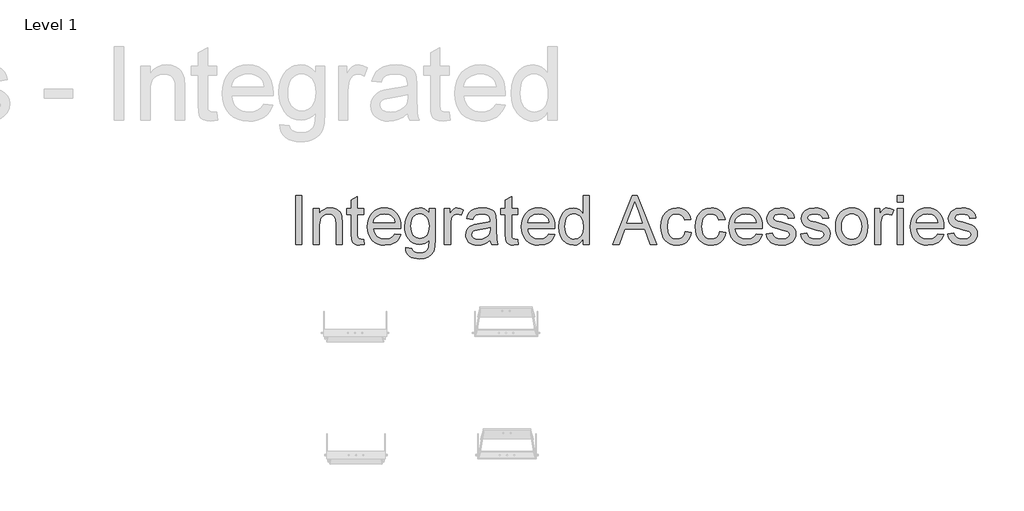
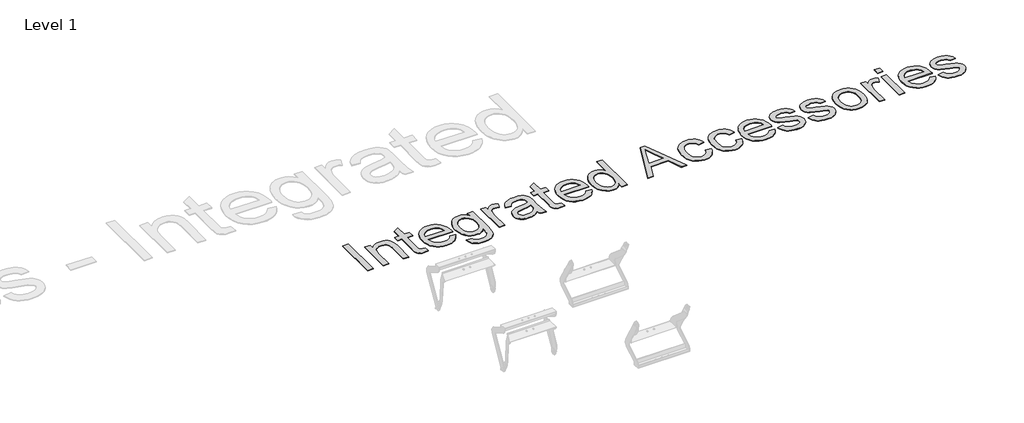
# One storey, part 3 of 7: 1 proxy.
"""IFC4 building model written with IfcOpenShell, lengths in millimetres."""

from ifc_helpers import new_model, si_unit, origin, origin_with_axes, place, context, project, spatial, polyline, outline, extrude, element, save

model = new_model("IFC4")

# Units and contexts
model_context = context("Model", 3, world=origin())
ifc_project = project(units=[si_unit("LENGTHUNIT", "METRE", prefix="MILLI")], contexts=[model_context])

# Site, building, storey
site = spatial("IfcSite", under=ifc_project)
building = spatial("IfcBuilding", under=site)
storey = spatial("IfcBuildingStorey", under=building, Name="Level 1", Elevation=0.0)

# Proxy
placement = place(None, origin())
element("IfcBuildingElementProxy", 1, Name="400mm Arial", ObjectType="400mm Arial", at=placement, inside=storey, context=model_context, shape_type="SweptSolid", body=[
    extrude(outline(polyline([(-11437.7764845, 10851.3054836), (-11437.7764845, 11243.0630593), (-11388.8067875, 11243.0630593), (-11388.8067875, 10851.3054836), (-11437.7764845, 10851.3054836)])), origin_with_axes(), (0.0, 0.0, 1.0), 5.0),
    extrude(outline(polyline([(-11296.9886057, 10851.3054836), (-11296.9886057, 11139.0024533), (-11248.0189088, 11139.0024533), (-11248.0189088, 11098.8319987), (-11231.006243, 11119.0846029), (-11210.5743065, 11133.5507487), (-11186.7230991, 11142.2304362), (-11159.4526209, 11145.1236654), (-11135.3144817, 11142.7923444), (-11113.2087762, 11135.7983813), (-11094.7734069, 11125.0145271), (-11081.6462762, 11111.3135328), (-11072.7394343, 11094.7312648), (-11066.9649315, 11075.3035896), (-11064.3825451, 11027.9598396), (-11064.3825451, 10851.3054836), (-11113.3522421, 10851.3054836), (-11113.3522421, 11021.3604078), (-11114.7629902, 11046.6821408), (-11118.9952345, 11064.6871124), (-11126.8021711, 11077.5870887), (-11138.9369959, 11087.5938358), (-11154.4910915, 11094.0139353), (-11172.5558406, 11096.1539684), (-11201.2370669, 11091.3478605), (-11225.6860489, 11076.9295366), (-11235.4566751, 11065.1593543), (-11242.4356938, 11049.0732393), (-11246.623105, 11028.6711914), (-11248.0189088, 11003.9532108), (-11248.0189088, 10851.3054836), (-11296.9886057, 10851.3054836)])), origin_with_axes(), (0.0, 0.0, 1.0), 5.0),
    extrude(outline(polyline([(-10892.9886057, 10892.1454457), (-10886.8673936, 10849.8708245), (-10923.4990224, 10845.1842715), (-10947.0035205, 10847.2167052), (-10964.5302724, 10853.3140063), (-10976.9161625, 10862.7110233), (-10984.9980754, 10874.6426048), (-10989.4455186, 10895.1343188), (-10990.9279997, 10930.2117336), (-10990.9279997, 11090.0327563), (-11027.6552724, 11090.0327563), (-11027.6552724, 11139.0024533), (-10990.9279997, 11139.0024533), (-10990.9279997, 11208.918173), (-10941.9583027, 11237.7069987), (-10941.9583027, 11139.0024533), (-10892.9886057, 11139.0024533), (-10892.9886057, 11090.0327563), (-10941.9583027, 11090.0327563), (-10941.9583027, 10931.6463927), (-10939.3759163, 10906.3963927), (-10931.0070716, 10897.4536843), (-10914.3172042, 10894.1539684), (-10892.9886057, 10892.1454457)])), origin_with_axes(), (0.0, 0.0, 1.0), 5.0),
    extrude(outline(polyline([(-10642.5927724, 10937.0024533), (-10594.5795148, 10930.8812411), (-10601.9411093, 10911.6508316), (-10611.8791124, 10894.7039211), (-10624.3935241, 10880.0405096), (-10639.4843444, 10867.6605972), (-10656.9961519, 10857.8272047), (-10676.7735252, 10850.8033529), (-10723.1249694, 10845.1842715), (-10753.5098534, 10847.6082475), (-10780.583066, 10854.8801758), (-10804.3446071, 10867.0000563), (-10824.7944769, 10883.9678889), (-10841.2392568, 10905.3114317), (-10852.9855281, 10930.5584429), (-10860.0332909, 10959.7089223), (-10862.3825451, 10992.7628699), (-10860.0093799, 11026.937645), (-10852.8898841, 11057.0595082), (-10841.0240579, 11083.1284594), (-10824.4119012, 11105.1444987), (-10804.0158311, 11122.6353841), (-10780.7982648, 11135.1288737), (-10754.7592023, 11142.6249675), (-10725.8986436, 11145.1236654), (-10697.9676244, 11142.6309452), (-10672.7086578, 11135.1527847), (-10650.1217438, 11122.6891839), (-10630.2068822, 11105.2401427), (-10613.9504014, 11083.2719253), (-10602.3386294, 11057.2507961), (-10595.3715662, 11027.1767549), (-10593.0492118, 10993.0498018), (-10593.3361436, 10979.8509381), (-10813.4128482, 10979.8509381), (-10810.5764076, 10960.3096858), (-10804.936404, 10943.1953983), (-10796.4928375, 10928.5080759), (-10785.245708, 10916.2477184), (-10756.8275025, 10899.6774059), (-10722.16853, 10894.1539684), (-10696.1055565, 10896.7124438), (-10674.1552724, 10904.3878699), (-10656.3176777, 10917.6584665), (-10642.5927724, 10937.0024533)]), holes=[polyline([(-10813.4128482, 11028.8206351), (-10642.0189088, 11028.8206351), (-10648.6422516, 11054.6923207), (-10661.6259163, 11073.199423), (-10674.9802014, 11083.2420366), (-10690.1756322, 11090.4153321), (-10726.0899315, 11096.1539684), (-10759.0990461, 11091.5750148), (-10786.3934353, 11077.838154), (-10805.3668018, 11056.4258671), (-10813.4128482, 11028.8206351)])]), origin_with_axes(), (0.0, 0.0, 1.0), 5.0),
    extrude(outline(polyline([(-10556.3219391, 10826.8206351), (-10507.3522421, 10820.699423), (-10501.9483595, 10805.3963927), (-10491.4753482, 10794.8755593), (-10470.8879902, 10786.6980025), (-10443.9403103, 10783.9721502), (-10415.1993065, 10787.0566673), (-10393.822886, 10796.3102184), (-10378.9980754, 10811.135029), (-10369.9119012, 10830.9333245), (-10366.5643633, 10888.0327563), (-10382.8596995, 10871.9645745), (-10401.0440035, 10860.4873018), (-10421.1172752, 10853.6009381), (-10443.0795148, 10851.3054836), (-10469.9285619, 10853.9775361), (-10493.5675593, 10861.9936938), (-10513.996507, 10875.3539566), (-10531.215405, 10894.0583245), (-10544.8775439, 10916.4987838), (-10554.6362146, 10941.0673207), (-10560.491417, 10967.7639353), (-10562.4431512, 10996.5886275), (-10558.9401919, 11036.125441), (-10548.4313141, 11072.4820934), (-10531.2871379, 11103.2913974), (-10507.8782838, 11126.1861654), (-10479.0057696, 11140.3892904), (-10445.4706133, 11145.1236654), (-10422.5698676, 11142.4456351), (-10401.785244, 11134.4115442), (-10383.1167426, 11121.0213927), (-10366.5643633, 11102.2751805), (-10366.5643633, 11139.0024533), (-10317.5946663, 11139.0024533), (-10317.5946663, 10890.6151427), (-10320.9422042, 10833.2646455), (-10330.9848179, 10795.4972449), (-10348.2844154, 10770.4504883), (-10373.402905, 10751.261923), (-10405.7903339, 10739.0673207), (-10444.8967497, 10735.0024533), (-10490.4591313, 10740.7291341), (-10509.6088413, 10747.8874852), (-10526.3375641, 10757.9091768), (-10539.8502594, 10770.8061642), (-10549.351887, 10786.5904031), (-10554.8424469, 10805.2618934), (-10556.3219391, 10826.8206351)]), holes=[polyline([(-10513.4734542, 10999.9361654), (-10508.248904, 10955.0193804), (-10501.7182163, 10937.8243934), (-10492.5752535, 10924.1383434), (-10481.4596344, 10913.6982097), (-10469.0109779, 10906.2409713), (-10455.229284, 10901.7666282), (-10440.1145527, 10900.2751805), (-10411.4333264, 10906.2051048), (-10387.7494959, 10923.9948775), (-10378.4810004, 10937.5464282), (-10371.8606464, 10954.4813832), (-10366.5643633, 10998.5015063), (-10372.0160679, 11040.9554599), (-10378.8306985, 11057.7260269), (-10388.3711815, 11071.525654), (-10412.4017213, 11089.9968898), (-10426.0847823, 11094.6146988), (-10440.8797042, 11096.1539684), (-10455.4265496, 11094.6386098), (-10468.843601, 11090.0925338), (-10492.2883216, 11071.9082298), (-10501.5568171, 11058.3178238), (-10508.1771711, 11041.7923444), (-10513.4734542, 10999.9361654)])]), origin_with_axes(), (0.0, 0.0, 1.0), 5.0),
    extrude(outline(polyline([(-10244.1401209, 10851.3054836), (-10244.1401209, 11139.0024533), (-10201.291636, 11139.0024533), (-10201.291636, 11096.4409002), (-10185.4625641, 11121.1170366), (-10170.8768633, 11135.6549154), (-10156.2433406, 11142.7564779), (-10140.2708027, 11145.1236654), (-10115.8815982, 11141.3457298), (-10091.1098179, 11130.011923), (-10107.4649315, 11086.1113548), (-10124.6808406, 11093.643315), (-10141.8967497, 11096.1539684), (-10156.5183169, 11093.738959), (-10169.5856701, 11086.4939305), (-10180.1423699, 11074.9688358), (-10187.2319769, 11059.7136275), (-10193.1858122, 11032.3594608), (-10195.1704239, 11002.5185518), (-10195.1704239, 10851.3054836), (-10244.1401209, 10851.3054836)])), origin_with_axes(), (0.0, 0.0, 1.0), 5.0),
    extrude(outline(polyline([(-9876.8673936, 10888.0327563), (-9900.2642923, 10867.97144), (-9924.3546095, 10854.8443093), (-9949.688298, 10847.5992809), (-9976.8153103, 10845.1842715), (-9998.6191396, 10846.6368638), (-10017.7389608, 10850.9946408), (-10034.1747741, 10858.2576024), (-10047.9265792, 10868.4257487), (-10058.7851552, 10880.8534831), (-10066.5412809, 10894.895209), (-10071.1949563, 10910.5509263), (-10072.7461815, 10927.8206351), (-10070.402905, 10948.1210612), (-10063.3730754, 10966.5564305), (-10052.5294438, 10982.3376805), (-10038.744761, 10994.6757487), (-10004.4564088, 11010.7439305), (-9962.0861436, 11018.1085139), (-9912.0165413, 11025.855673), (-9877.1543254, 11034.9418472), (-9876.8673936, 11045.8452563), (-9880.2388425, 11067.6998965), (-9890.3531891, 11081.9986654), (-9912.9729807, 11092.6151427), (-9944.4876588, 11096.1539684), (-9973.6590603, 11093.7987364), (-9994.0312194, 11086.7330404), (-10007.9235016, 11073.6656872), (-10017.6552724, 11053.3054836), (-10066.6249694, 11059.4266957), (-10058.1246143, 11086.2069987), (-10045.4398368, 11107.2486654), (-10027.3870432, 11123.3407582), (-10002.7826398, 11135.2723396), (-9972.6906654, 11142.660834), (-9938.1751588, 11145.1236654), (-9905.0704002, 11142.9477658), (-9878.8280944, 11136.4200669), (-9859.0417544, 11126.6046076), (-9845.3048936, 11114.5654268), (-9836.1948084, 11099.6808387), (-9830.2887951, 11081.3291578), (-9827.8976966, 11038.480673), (-9827.8976966, 10977.5554836), (-9825.4109542, 10892.4801995), (-9815.6552724, 10851.3054836), (-9864.6249694, 10851.3054836), (-9872.4677724, 10868.3301048), (-9876.8673936, 10888.0327563)]), holes=[polyline([(-9876.8673936, 10985.9721502), (-9909.7689088, 10977.8185044), (-9955.8692875, 10970.9560518), (-9998.0004429, 10963.0176048), (-10008.9636294, 10957.5898112), (-10017.0814088, 10950.105673), (-10022.1027156, 10941.1390536), (-10023.7764845, 10931.2638169), (-10020.1300593, 10916.7020271), (-10009.1907838, 10904.7704457), (-9991.1977677, 10896.8080877), (-9966.3901209, 10894.1539684), (-9940.0880375, 10897.0830641), (-9916.8465603, 10905.870351), (-9898.0047042, 10918.8181493), (-9884.9014845, 10934.228779), (-9879.0911152, 10950.105673), (-9877.1543254, 10972.103779), (-9876.8673936, 10985.9721502)])]), origin_with_axes(), (0.0, 0.0, 1.0), 5.0),
    extrude(outline(polyline([(-9656.5037572, 10892.1454457), (-9650.3825451, 10849.8708245), (-9687.0141739, 10845.1842715), (-9710.518672, 10847.2167052), (-9728.0454239, 10853.3140063), (-9740.4313141, 10862.7110233), (-9748.5132269, 10874.6426048), (-9752.9606701, 10895.1343188), (-9754.4431512, 10930.2117336), (-9754.4431512, 11090.0327563), (-9791.1704239, 11090.0327563), (-9791.1704239, 11139.0024533), (-9754.4431512, 11139.0024533), (-9754.4431512, 11208.918173), (-9705.4734542, 11237.7069987), (-9705.4734542, 11139.0024533), (-9656.5037572, 11139.0024533), (-9656.5037572, 11090.0327563), (-9705.4734542, 11090.0327563), (-9705.4734542, 10931.6463927), (-9702.8910679, 10906.3963927), (-9694.5222232, 10897.4536843), (-9677.8323557, 10894.1539684), (-9656.5037572, 10892.1454457)])), origin_with_axes(), (0.0, 0.0, 1.0), 5.0),
    extrude(outline(polyline([(-9406.1079239, 10937.0024533), (-9358.0946663, 10930.8812411), (-9365.4562608, 10911.6508316), (-9375.3942639, 10894.7039211), (-9387.9086756, 10880.0405096), (-9402.9994959, 10867.6605972), (-9420.5113034, 10857.8272047), (-9440.2886768, 10850.8033529), (-9486.6401209, 10845.1842715), (-9517.0250049, 10847.6082475), (-9544.0982175, 10854.8801758), (-9567.8597587, 10867.0000563), (-9588.3096285, 10883.9678889), (-9604.7544083, 10905.3114317), (-9616.5006796, 10930.5584429), (-9623.5484424, 10959.7089223), (-9625.8976966, 10992.7628699), (-9623.5245314, 11026.937645), (-9616.4050357, 11057.0595082), (-9604.5392094, 11083.1284594), (-9587.9270527, 11105.1444987), (-9567.5309826, 11122.6353841), (-9544.3134163, 11135.1288737), (-9518.2743538, 11142.6249675), (-9489.4137951, 11145.1236654), (-9461.4827759, 11142.6309452), (-9436.2238093, 11135.1527847), (-9413.6368953, 11122.6891839), (-9393.7220338, 11105.2401427), (-9377.4655529, 11083.2719253), (-9365.8537809, 11057.2507961), (-9358.8867177, 11027.1767549), (-9356.5643633, 10993.0498018), (-9356.8512951, 10979.8509381), (-9576.9279997, 10979.8509381), (-9574.0915591, 10960.3096858), (-9568.4515555, 10943.1953983), (-9560.007989, 10928.5080759), (-9548.7608595, 10916.2477184), (-9520.342654, 10899.6774059), (-9485.6836815, 10894.1539684), (-9459.620708, 10896.7124438), (-9437.6704239, 10904.3878699), (-9419.8328292, 10917.6584665), (-9406.1079239, 10937.0024533)]), holes=[polyline([(-9576.9279997, 11028.8206351), (-9405.5340603, 11028.8206351), (-9412.1574031, 11054.6923207), (-9425.1410679, 11073.199423), (-9438.4953529, 11083.2420366), (-9453.6907838, 11090.4153321), (-9489.605083, 11096.1539684), (-9522.6141976, 11091.5750148), (-9549.9085868, 11077.838154), (-9568.8819533, 11056.4258671), (-9576.9279997, 11028.8206351)])]), origin_with_axes(), (0.0, 0.0, 1.0), 5.0),
    extrude(outline(polyline([(-9130.0795148, 10851.3054836), (-9130.0795148, 10897.5015063), (-9144.7309708, 10874.6127161), (-9162.4788993, 10858.2635802), (-9183.3233003, 10848.4540986), (-9207.2641739, 10845.1842715), (-9238.9223179, 10849.9186465), (-9267.9024315, 10864.1217715), (-9292.4351019, 10886.8013406), (-9310.7509163, 10916.965048), (-9322.1564561, 10953.3934334), (-9325.9583027, 10994.8670366), (-9322.4553434, 11035.8265536), (-9311.9464656, 11072.8168472), (-9294.4436247, 11103.7337506), (-9269.9587762, 11126.4730972), (-9240.3450214, 11140.4610233), (-9207.4554618, 11145.1236654), (-9183.496655, 11141.788083), (-9162.3115224, 11131.7813358), (-9144.3543728, 11116.4424391), (-9130.0795148, 11097.1104078), (-9130.0795148, 11243.0630593), (-9081.1098179, 11243.0630593), (-9081.1098179, 10851.3054836), (-9130.0795148, 10851.3054836)]), holes=[polyline([(-9276.9886057, 10995.0583245), (-9271.4651682, 10950.763225), (-9264.5608714, 10933.4128167), (-9254.8948557, 10919.2605025), (-9230.816494, 10900.4306019), (-9217.2888543, 10895.7231268), (-9202.7689088, 10894.1539684), (-9174.733279, 10900.1436701), (-9151.2646474, 10918.1127752), (-9141.9961519, 10931.6732925), (-9135.375798, 10948.3960375), (-9130.0795148, 10991.3282108), (-9135.4714419, 11038.2654741), (-9142.2113508, 11056.3362009), (-9151.6472232, 11070.8083245), (-9163.0557518, 11081.8970437), (-9175.7136294, 11089.8175574), (-9189.620856, 11094.5698657), (-9204.7774315, 11096.1539684), (-9219.5843089, 11094.632632), (-9233.1119485, 11090.0686228), (-9245.3603505, 11082.4619407), (-9256.3295148, 11071.8125858), (-9265.3678671, 11057.887426), (-9271.823833, 11040.4533292), (-9276.9886057, 10995.0583245)])]), origin_with_axes(), (0.0, 0.0, 1.0), 5.0),
    extrude(outline(polyline([(-8894.1259163, 10851.3054836), (-8737.7480754, 11243.0630593), (-8696.0473179, 11243.0630593), (-8539.6694769, 10851.3054836), (-8591.4128482, 10851.3054836), (-8636.2698557, 10973.729726), (-8797.6211815, 10973.729726), (-8842.3825451, 10851.3054836), (-8894.1259163, 10851.3054836)]), holes=[polyline([(-8779.6401209, 11022.699423), (-8654.1552724, 11022.699423), (-8689.447886, 11119.0128699), (-8716.8976966, 11194.0933624), (-8741.2869012, 11127.4295366), (-8779.6401209, 11022.699423)])]), origin_with_axes(), (0.0, 0.0, 1.0), 5.0),
    extrude(outline(polyline([(-8309.8370906, 10955.3660896), (-8260.8673936, 10949.2448775), (-8266.1935655, 10926.1378995), (-8274.520566, 10905.6910186), (-8285.848395, 10887.9042348), (-8300.1770527, 10872.777548), (-8316.9027866, 10860.7054895), (-8335.4218444, 10852.0825906), (-8355.734226, 10846.9088512), (-8377.8399315, 10845.1842715), (-8405.3046865, 10847.5903143), (-8429.930012, 10854.8084429), (-8451.715908, 10866.8386571), (-8470.6623747, 10883.6809571), (-8485.9982826, 10905.0185222), (-8496.9525025, 10930.5345319), (-8503.5250345, 10960.2289862), (-8505.7158785, 10994.1018851), (-8501.9738093, 11037.679655), (-8490.7476019, 11075.4470555), (-8471.8579239, 11105.9455167), (-8445.1254429, 11127.7164684), (-8413.1445006, 11140.7718661), (-8378.5094391, 11145.1236654), (-8356.7833205, 11143.6292288), (-8337.1314798, 11139.1459192), (-8319.553917, 11131.6737364), (-8304.0506322, 11121.2126805), (-8290.8846462, 11108.0018614), (-8280.3189798, 11092.2803889), (-8272.353633, 11074.0482629), (-8266.9886057, 11053.3054836), (-8315.9583027, 11047.1842715), (-8324.8412336, 11068.5487364), (-8338.6737383, 11083.8637222), (-8356.6906654, 11093.0814069), (-8378.1268633, 11096.1539684), (-8394.7659199, 11094.6415986), (-8409.7730518, 11090.1044893), (-8423.1482589, 11082.5426403), (-8434.8915413, 11071.9560518), (-8444.4529464, 11058.099636), (-8451.2825214, 11040.7283055), (-8456.7461815, 10995.4409002), (-8451.4020764, 10949.5437648), (-8444.721945, 10932.0558683), (-8435.369761, 10918.2084192), (-8423.8596107, 10907.684597), (-8410.7055802, 10900.1675811), (-8395.9076694, 10895.6573716), (-8379.4658785, 10894.1539684), (-8354.108279, 10897.907993), (-8333.3176777, 10909.1700669), (-8318.1939798, 10928.2271218), (-8309.8370906, 10955.3660896)])), origin_with_axes(), (0.0, 0.0, 1.0), 5.0),
    extrude(outline(polyline([(-8034.3825451, 10955.3660896), (-7985.4128482, 10949.2448775), (-7990.73902, 10926.1378995), (-7999.0660205, 10905.6910186), (-8010.3938496, 10887.9042348), (-8024.7225072, 10872.777548), (-8041.4482411, 10860.7054895), (-8059.9672989, 10852.0825906), (-8080.2796805, 10846.9088512), (-8102.385386, 10845.1842715), (-8129.850141, 10847.5903143), (-8154.4754665, 10854.8084429), (-8176.2613626, 10866.8386571), (-8195.2078292, 10883.6809571), (-8210.5437371, 10905.0185222), (-8221.4979571, 10930.5345319), (-8228.070489, 10960.2289862), (-8230.261333, 10994.1018851), (-8226.5192639, 11037.679655), (-8215.2930565, 11075.4470555), (-8196.4033785, 11105.9455167), (-8169.6708974, 11127.7164684), (-8137.6899552, 11140.7718661), (-8103.0548936, 11145.1236654), (-8081.328775, 11143.6292288), (-8061.6769343, 11139.1459192), (-8044.0993716, 11131.6737364), (-8028.5960868, 11121.2126805), (-8015.4301008, 11108.0018614), (-8004.8644343, 11092.2803889), (-7996.8990875, 11074.0482629), (-7991.5340603, 11053.3054836), (-8040.5037572, 11047.1842715), (-8049.3866881, 11068.5487364), (-8063.2191929, 11083.8637222), (-8081.2361199, 11093.0814069), (-8102.6723179, 11096.1539684), (-8119.3113744, 11094.6415986), (-8134.3185063, 11090.1044893), (-8147.6937134, 11082.5426403), (-8159.4369959, 11071.9560518), (-8168.9984009, 11058.099636), (-8175.827976, 11040.7283055), (-8181.291636, 10995.4409002), (-8175.9475309, 10949.5437648), (-8169.2673995, 10932.0558683), (-8159.9152156, 10918.2084192), (-8148.4050652, 10907.684597), (-8135.2510347, 10900.1675811), (-8120.453124, 10895.6573716), (-8104.011333, 10894.1539684), (-8078.6537336, 10897.907993), (-8057.8631322, 10909.1700669), (-8042.7394343, 10928.2271218), (-8034.3825451, 10955.3660896)])), origin_with_axes(), (0.0, 0.0, 1.0), 5.0),
    extrude(outline(polyline([(-7741.1382269, 10937.0024533), (-7693.1249694, 10930.8812411), (-7700.4865638, 10911.6508316), (-7710.4245669, 10894.7039211), (-7722.9389786, 10880.0405096), (-7738.0297989, 10867.6605972), (-7755.5416064, 10857.8272047), (-7775.3189798, 10850.8033529), (-7821.6704239, 10845.1842715), (-7852.0553079, 10847.6082475), (-7879.1285205, 10854.8801758), (-7902.8900617, 10867.0000563), (-7923.3399315, 10883.9678889), (-7939.7847113, 10905.3114317), (-7951.5309826, 10930.5584429), (-7958.5787454, 10959.7089223), (-7960.9279997, 10992.7628699), (-7958.5548344, 11026.937645), (-7951.4353387, 11057.0595082), (-7939.5695125, 11083.1284594), (-7922.9573557, 11105.1444987), (-7902.5612857, 11122.6353841), (-7879.3437194, 11135.1288737), (-7853.3046569, 11142.6249675), (-7824.4440982, 11145.1236654), (-7796.513079, 11142.6309452), (-7771.2541124, 11135.1527847), (-7748.6671983, 11122.6891839), (-7728.7523368, 11105.2401427), (-7712.495856, 11083.2719253), (-7700.8840839, 11057.2507961), (-7693.9170207, 11027.1767549), (-7691.5946663, 10993.0498018), (-7691.8815982, 10979.8509381), (-7911.9583027, 10979.8509381), (-7909.1218621, 10960.3096858), (-7903.4818586, 10943.1953983), (-7895.038292, 10928.5080759), (-7883.7911625, 10916.2477184), (-7855.3729571, 10899.6774059), (-7820.7139845, 10894.1539684), (-7794.651011, 10896.7124438), (-7772.7007269, 10904.3878699), (-7754.8631322, 10917.6584665), (-7741.1382269, 10937.0024533)]), holes=[polyline([(-7911.9583027, 11028.8206351), (-7740.5643633, 11028.8206351), (-7747.1877061, 11054.6923207), (-7760.1713709, 11073.199423), (-7773.5256559, 11083.2420366), (-7788.7210868, 11090.4153321), (-7824.635386, 11096.1539684), (-7857.6445006, 11091.5750148), (-7884.9388898, 11077.838154), (-7903.9122563, 11056.4258671), (-7911.9583027, 11028.8206351)])]), origin_with_axes(), (0.0, 0.0, 1.0), 5.0),
    extrude(outline(polyline([(-7660.9886057, 10937.0024533), (-7612.0189088, 10943.1236654), (-7604.2956607, 10922.1776427), (-7589.3512951, 10906.7789684), (-7567.0901682, 10897.3102184), (-7537.416636, 10894.1539684), (-7508.1017686, 10897.0471976), (-7487.4904997, 10905.7268851), (-7475.2958974, 10918.3040631), (-7471.23103, 10932.8897639), (-7475.3198084, 10945.371298), (-7487.5861436, 10954.8878699), (-7537.9904997, 10968.8518851), (-7611.7319769, 10992.8106919), (-7630.3945006, 11004.8498728), (-7643.9161625, 11020.7865442), (-7652.1295858, 11039.6044893), (-7654.8673936, 11060.2874911), (-7652.667583, 11079.2608576), (-7646.0681512, 11096.775654), (-7635.6668728, 11112.1384618), (-7622.0615224, 11124.6558624), (-7590.9294201, 11139.1459192), (-7548.7982648, 11145.1236654), (-7516.924922, 11142.7206114), (-7489.2120906, 11135.5114495), (-7466.9270527, 11124.2015536), (-7451.3370906, 11109.496298), (-7441.0075451, 11090.3077326), (-7434.5037572, 11065.5479078), (-7483.4734542, 11059.4266957), (-7489.6544438, 11074.8373254), (-7501.8849125, 11086.4461086), (-7520.2844154, 11093.7270035), (-7544.9725072, 11096.1539684), (-7573.0918254, 11093.8346029), (-7591.8380375, 11086.8765063), (-7602.3827819, 11076.8338927), (-7605.8976966, 11065.260976), (-7600.0634163, 11051.010029), (-7581.7954239, 11040.2022639), (-7539.6164466, 11029.7770745), (-7467.7400262, 11006.7268851), (-7448.7547042, 10995.7039211), (-7434.3602913, 10980.6160896), (-7425.2860726, 10961.4155688), (-7422.261333, 10938.0545366), (-7425.8121143, 10913.9044419), (-7436.464458, 10891.1890063), (-7453.8118775, 10871.6895982), (-7477.447886, 10857.1875858), (-7505.9976019, 10848.1851), (-7538.0861436, 10845.1842715), (-7564.4420267, 10846.630886), (-7587.4623273, 10850.9707298), (-7607.1470456, 10858.2038027), (-7623.4961815, 10868.3301048), (-7636.8504665, 10881.3018141), (-7647.5506322, 10897.0711086), (-7655.5966786, 10915.6379883), (-7660.9886057, 10937.0024533)])), origin_with_axes(), (0.0, 0.0, 1.0), 5.0),
    extrude(outline(polyline([(-7385.5340603, 10937.0024533), (-7336.5643633, 10943.1236654), (-7328.8411152, 10922.1776427), (-7313.8967497, 10906.7789684), (-7291.6356228, 10897.3102184), (-7261.9620906, 10894.1539684), (-7232.6472232, 10897.0471976), (-7212.0359542, 10905.7268851), (-7199.8413519, 10918.3040631), (-7195.7764845, 10932.8897639), (-7199.8652629, 10945.371298), (-7212.1315982, 10954.8878699), (-7262.5359542, 10968.8518851), (-7336.2774315, 10992.8106919), (-7354.9399552, 11004.8498728), (-7368.4616171, 11020.7865442), (-7376.6750404, 11039.6044893), (-7379.4128482, 11060.2874911), (-7377.2130375, 11079.2608576), (-7370.6136057, 11096.775654), (-7360.2123273, 11112.1384618), (-7346.6069769, 11124.6558624), (-7315.4748747, 11139.1459192), (-7273.3437194, 11145.1236654), (-7241.4703766, 11142.7206114), (-7213.7575451, 11135.5114495), (-7191.4725072, 11124.2015536), (-7175.8825451, 11109.496298), (-7165.5529997, 11090.3077326), (-7159.0492118, 11065.5479078), (-7208.0189088, 11059.4266957), (-7214.1998983, 11074.8373254), (-7226.4303671, 11086.4461086), (-7244.8298699, 11093.7270035), (-7269.5179618, 11096.1539684), (-7297.63728, 11093.8346029), (-7316.3834921, 11086.8765063), (-7326.9282364, 11076.8338927), (-7330.4431512, 11065.260976), (-7324.6088709, 11051.010029), (-7306.3408785, 11040.2022639), (-7264.1619012, 11029.7770745), (-7192.2854807, 11006.7268851), (-7173.3001588, 10995.7039211), (-7158.9057459, 10980.6160896), (-7149.8315271, 10961.4155688), (-7146.8067875, 10938.0545366), (-7150.3575688, 10913.9044419), (-7161.0099125, 10891.1890063), (-7178.3573321, 10871.6895982), (-7201.9933406, 10857.1875858), (-7230.5430565, 10848.1851), (-7262.6315982, 10845.1842715), (-7288.9874812, 10846.630886), (-7312.0077819, 10850.9707298), (-7331.6925001, 10858.2038027), (-7348.041636, 10868.3301048), (-7361.3959211, 10881.3018141), (-7372.0960868, 10897.0711086), (-7380.1421332, 10915.6379883), (-7385.5340603, 10937.0024533)])), origin_with_axes(), (0.0, 0.0, 1.0), 5.0),
    extrude(outline(polyline([(-7103.9583027, 10995.1539684), (-7101.3101611, 11032.4132606), (-7093.3657364, 11064.5197355), (-7080.1250286, 11091.4733931), (-7061.5880375, 11113.2742336), (-7042.9255139, 11127.20836), (-7022.3262004, 11137.1613074), (-6999.7900972, 11143.1330759), (-6975.3172042, 11145.1236654), (-6948.3007802, 11142.6996893), (-6923.8727203, 11135.427761), (-6902.0330245, 11123.3078806), (-6882.7816929, 11106.340048), (-6867.0691869, 11085.0981268), (-6855.8459684, 11060.1559807), (-6849.1120373, 11031.5136098), (-6846.8673936, 10999.1710139), (-6850.8366171, 10949.6991862), (-6862.7442875, 10912.0393851), (-6882.2436957, 10883.8363785), (-6908.9881322, 10862.7349343), (-6940.7538756, 10849.5719372), (-6975.3172042, 10845.1842715), (-7002.7281595, 10847.5992809), (-7027.3833737, 10854.8443093), (-7049.282847, 10866.9193567), (-7068.4265792, 10883.824423), (-7083.9717082, 10905.2725764), (-7095.0753718, 10930.9768851), (-7101.73757, 10960.9373491), (-7103.9583027, 10995.1539684)]), holes=[polyline([(-7054.9886057, 10995.2496124), (-7053.5718799, 10971.4970378), (-7049.3217023, 10950.9306019), (-7042.2380731, 10933.5503048), (-7032.3209921, 10919.3561465), (-7020.2579002, 10908.3301936), (-7006.7362383, 10900.4545129), (-6991.7560063, 10895.7291045), (-6975.3172042, 10894.1539684), (-6958.9620906, 10895.7380712), (-6944.041636, 10900.4903794), (-6930.5558406, 10908.4108931), (-6918.5047042, 10919.4996124), (-6908.5876232, 10933.8342478), (-6901.503994, 10951.4925101), (-6897.2538164, 10972.4743993), (-6895.8370906, 10996.7799154), (-6897.262783, 11019.7792939), (-6901.5398605, 11039.8077326), (-6908.6683228, 11056.8652314), (-6918.6481701, 11070.9517904), (-6930.7441396, 11081.9777433), (-6944.2209684, 11089.8534239), (-6959.0786566, 11094.5788323), (-6975.3172042, 11096.1539684), (-6991.7560063, 11094.58481), (-7006.7362383, 11089.8773349), (-7020.2579002, 11082.031543), (-7032.3209921, 11071.0474343), (-7042.2380731, 11056.8951202), (-7049.3217023, 11039.5447118), (-7053.5718799, 11018.9962092), (-7054.9886057, 10995.2496124)])]), origin_with_axes(), (0.0, 0.0, 1.0), 5.0),
    extrude(outline(polyline([(-6791.7764845, 10851.3054836), (-6791.7764845, 11139.0024533), (-6748.9279997, 11139.0024533), (-6748.9279997, 11096.4409002), (-6733.0989277, 11121.1170366), (-6718.5132269, 11135.6549154), (-6703.8797042, 11142.7564779), (-6687.9071663, 11145.1236654), (-6663.5179618, 11141.3457298), (-6638.7461815, 11130.011923), (-6655.1012951, 11086.1113548), (-6672.3172042, 11093.643315), (-6689.5331133, 11096.1539684), (-6704.1546805, 11093.738959), (-6717.2220338, 11086.4939305), (-6727.7787336, 11074.9688358), (-6734.8683406, 11059.7136275), (-6740.8221758, 11032.3594608), (-6742.8067875, 11002.5185518), (-6742.8067875, 10851.3054836), (-6791.7764845, 10851.3054836)])), origin_with_axes(), (0.0, 0.0, 1.0), 5.0),
    extrude(outline(polyline([(-6608.1401209, 10851.3054836), (-6608.1401209, 11139.0024533), (-6559.1704239, 11139.0024533), (-6559.1704239, 10851.3054836), (-6608.1401209, 10851.3054836)])), origin_with_axes(), (0.0, 0.0, 1.0), 5.0),
    extrude(outline(polyline([(-6608.1401209, 11194.0933624), (-6608.1401209, 11243.0630593), (-6559.1704239, 11243.0630593), (-6559.1704239, 11194.0933624), (-6608.1401209, 11194.0933624)])), origin_with_axes(), (0.0, 0.0, 1.0), 5.0),
    extrude(outline(polyline([(-6284.2897421, 10937.0024533), (-6236.2764845, 10930.8812411), (-6243.638079, 10911.6508316), (-6253.5760821, 10894.7039211), (-6266.0904938, 10880.0405096), (-6281.1813141, 10867.6605972), (-6298.6931216, 10857.8272047), (-6318.4704949, 10850.8033529), (-6364.8219391, 10845.1842715), (-6395.2068231, 10847.6082475), (-6422.2800357, 10854.8801758), (-6446.0415768, 10867.0000563), (-6466.4914466, 10883.9678889), (-6482.9362265, 10905.3114317), (-6494.6824978, 10930.5584429), (-6501.7302606, 10959.7089223), (-6504.0795148, 10992.7628699), (-6501.7063496, 11026.937645), (-6494.5868538, 11057.0595082), (-6482.7210276, 11083.1284594), (-6466.1088709, 11105.1444987), (-6445.7128008, 11122.6353841), (-6422.4952345, 11135.1288737), (-6396.456172, 11142.6249675), (-6367.5956133, 11145.1236654), (-6339.6645941, 11142.6309452), (-6314.4056275, 11135.1527847), (-6291.8187134, 11122.6891839), (-6271.9038519, 11105.2401427), (-6255.6473711, 11083.2719253), (-6244.0355991, 11057.2507961), (-6237.0685359, 11027.1767549), (-6234.7461815, 10993.0498018), (-6235.0331133, 10979.8509381), (-6455.1098179, 10979.8509381), (-6452.2733773, 10960.3096858), (-6446.6333737, 10943.1953983), (-6438.1898072, 10928.5080759), (-6426.9426777, 10916.2477184), (-6398.5244722, 10899.6774059), (-6363.8654997, 10894.1539684), (-6337.8025262, 10896.7124438), (-6315.8522421, 10904.3878699), (-6298.0146474, 10917.6584665), (-6284.2897421, 10937.0024533)]), holes=[polyline([(-6455.1098179, 11028.8206351), (-6283.7158785, 11028.8206351), (-6290.3392213, 11054.6923207), (-6303.322886, 11073.199423), (-6316.6771711, 11083.2420366), (-6331.8726019, 11090.4153321), (-6367.7869012, 11096.1539684), (-6400.7960158, 11091.5750148), (-6428.090405, 11077.838154), (-6447.0637714, 11056.4258671), (-6455.1098179, 11028.8206351)])]), origin_with_axes(), (0.0, 0.0, 1.0), 5.0),
    extrude(outline(polyline([(-6204.1401209, 10937.0024533), (-6155.1704239, 10943.1236654), (-6147.4471758, 10922.1776427), (-6132.5028103, 10906.7789684), (-6110.2416834, 10897.3102184), (-6080.5681512, 10894.1539684), (-6051.2532838, 10897.0471976), (-6030.6420148, 10905.7268851), (-6018.4474125, 10918.3040631), (-6014.3825451, 10932.8897639), (-6018.4713235, 10945.371298), (-6030.7376588, 10954.8878699), (-6081.1420148, 10968.8518851), (-6154.8834921, 10992.8106919), (-6173.5460158, 11004.8498728), (-6187.0676777, 11020.7865442), (-6195.281101, 11039.6044893), (-6198.0189088, 11060.2874911), (-6195.8190982, 11079.2608576), (-6189.2196663, 11096.775654), (-6178.8183879, 11112.1384618), (-6165.2130375, 11124.6558624), (-6134.0809353, 11139.1459192), (-6091.94978, 11145.1236654), (-6060.0764372, 11142.7206114), (-6032.3636057, 11135.5114495), (-6010.0785679, 11124.2015536), (-5994.4886057, 11109.496298), (-5984.1590603, 11090.3077326), (-5977.6552724, 11065.5479078), (-6026.6249694, 11059.4266957), (-6032.8059589, 11074.8373254), (-6045.0364277, 11086.4461086), (-6063.4359305, 11093.7270035), (-6088.1240224, 11096.1539684), (-6116.2433406, 11093.8346029), (-6134.9895527, 11086.8765063), (-6145.534297, 11076.8338927), (-6149.0492118, 11065.260976), (-6143.2149315, 11051.010029), (-6124.9469391, 11040.2022639), (-6082.7679618, 11029.7770745), (-6010.8915413, 11006.7268851), (-5991.9062194, 10995.7039211), (-5977.5118065, 10980.6160896), (-5968.4375877, 10961.4155688), (-5965.4128482, 10938.0545366), (-5968.9636294, 10913.9044419), (-5979.6159732, 10891.1890063), (-5996.9633927, 10871.6895982), (-6020.5994012, 10857.1875858), (-6049.1491171, 10848.1851), (-6081.2376588, 10845.1842715), (-6107.5935418, 10846.630886), (-6130.6138425, 10850.9707298), (-6150.2985607, 10858.2038027), (-6166.6476966, 10868.3301048), (-6180.0019817, 10881.3018141), (-6190.7021474, 10897.0711086), (-6198.7481938, 10915.6379883), (-6204.1401209, 10937.0024533)])), origin_with_axes(), (0.0, 0.0, 1.0), 5.0),
])

save(model, "model.ifc")
